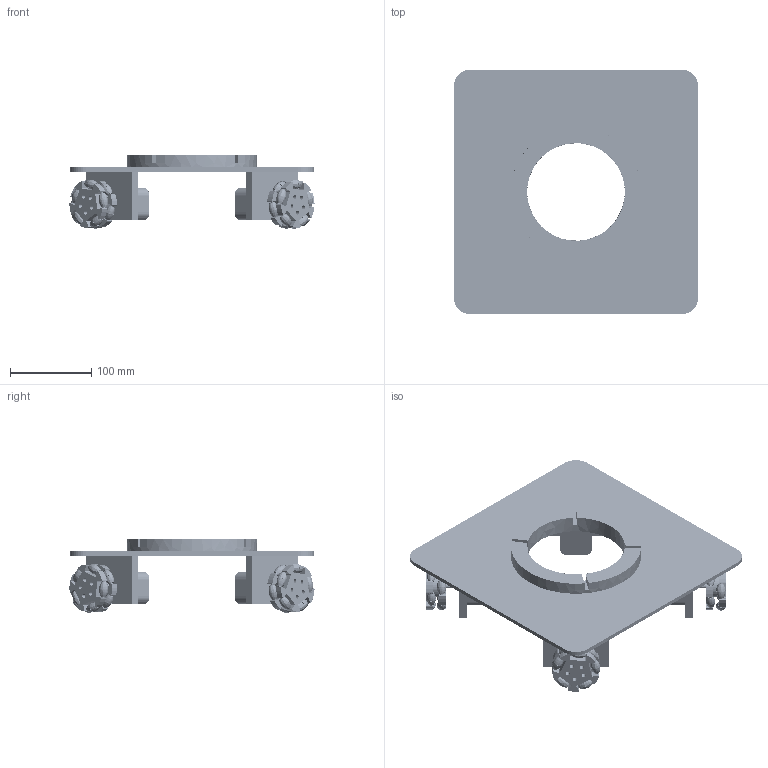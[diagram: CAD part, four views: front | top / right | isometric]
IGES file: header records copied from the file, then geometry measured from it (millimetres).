
Start section: SolidWorks IGES file using analytic representation for surfaces
Global section: file name: E:\fabacadmey\weekly work\week 3\fi\Assem1.IGS; native system: SolidWorks 2014; preprocessor: SolidWorks 2014; author: Gaurav W; date: 180618.200601; units: millimetre
Bounding box: 301 x 301 x 90.19 mm (x, y, z)
Surface area: 353737.5 mm2 (no closed solid volume)
Topology: 0 solids, 0 shells, 1502 faces, 29040 edges, 29040 vertices
Faces by surface type: revolution 896, bspline 606
